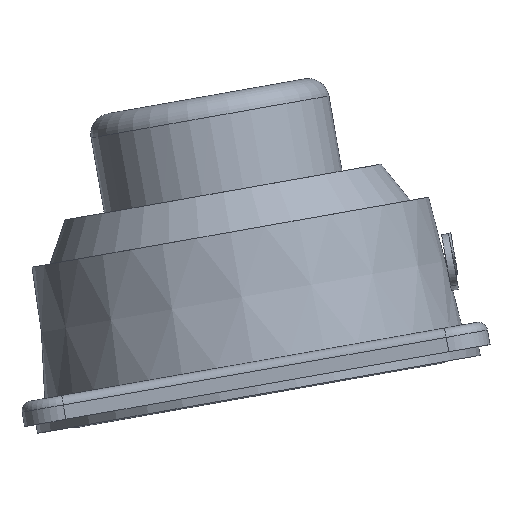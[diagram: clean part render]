
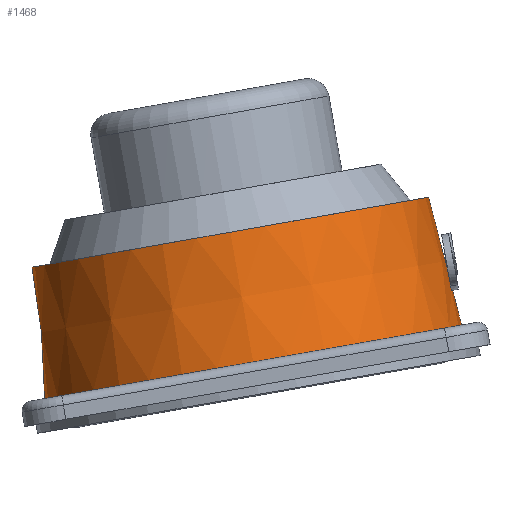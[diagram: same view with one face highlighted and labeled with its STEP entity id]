
A CAD part, left-side view. The second image highlights one B-rep face of the part: STEP entity #1468.
In plain terms, the highlighted conical face has half-angle 4.5 degrees and reference radius 19.754 mm.
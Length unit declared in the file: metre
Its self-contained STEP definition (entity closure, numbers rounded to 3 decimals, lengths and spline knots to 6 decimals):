
#15=CONICAL_SURFACE('',#1628,0.019754,0.079);
#30=B_SPLINE_CURVE_WITH_KNOTS('',3,(#2378,#2379,#2380,#2381),
 .UNSPECIFIED.,.F.,.F.,(4,4),(0.,0.001318),
 .UNSPECIFIED.);
#31=B_SPLINE_CURVE_WITH_KNOTS('',3,(#2386,#2387,#2388,#2389,#2390),
 .UNSPECIFIED.,.F.,.F.,(4,1,4),(0.015865,0.016909,0.017952),
 .UNSPECIFIED.);
#32=B_SPLINE_CURVE_WITH_KNOTS('',3,(#2395,#2396,#2397,#2398,#2399),
 .UNSPECIFIED.,.F.,.F.,(4,1,4),(0.015852,0.016895,0.017939),
 .UNSPECIFIED.);
#33=B_SPLINE_CURVE_WITH_KNOTS('',3,(#2401,#2402,#2403,#2404),
 .UNSPECIFIED.,.F.,.F.,(4,4),(0.,0.004348),
 .UNSPECIFIED.);
#366=ORIENTED_EDGE('',*,*,#716,.T.);
#367=ORIENTED_EDGE('',*,*,#715,.T.);
#368=ORIENTED_EDGE('',*,*,#701,.T.);
#369=ORIENTED_EDGE('',*,*,#699,.T.);
#370=ORIENTED_EDGE('',*,*,#704,.T.);
#371=ORIENTED_EDGE('',*,*,#705,.T.);
#699=EDGE_CURVE('',#891,#892,#30,.T.);
#701=EDGE_CURVE('',#893,#891,#31,.T.);
#704=EDGE_CURVE('',#892,#894,#32,.F.);
#705=EDGE_CURVE('',#894,#893,#33,.T.);
#715=EDGE_CURVE('',#904,#904,#1047,.T.);
#716=EDGE_CURVE('',#905,#905,#1048,.T.);
#891=VERTEX_POINT('',#2382);
#892=VERTEX_POINT('',#2383);
#893=VERTEX_POINT('',#2391);
#894=VERTEX_POINT('',#2394);
#904=VERTEX_POINT('',#2434);
#905=VERTEX_POINT('',#2437);
#1047=CIRCLE('',#1627,0.019258);
#1048=CIRCLE('',#1629,0.02025);
#1170=EDGE_LOOP('',(#366));
#1171=EDGE_LOOP('',(#367));
#1172=EDGE_LOOP('',(#368,#369,#370,#371));
#1308=FACE_BOUND('',#1170,.T.);
#1309=FACE_BOUND('',#1171,.T.);
#1310=FACE_BOUND('',#1172,.T.);
#1468=ADVANCED_FACE('',(#1308,#1309,#1310),#15,.T.);
#1627=AXIS2_PLACEMENT_3D('',#2433,#1939,#1940);
#1628=AXIS2_PLACEMENT_3D('',#2435,#1941,#1942);
#1629=AXIS2_PLACEMENT_3D('',#2436,#1943,#1944);
#1939=DIRECTION('',(0.,-0.174,-0.985));
#1940=DIRECTION('',(-1.,0.,0.));
#1941=DIRECTION('',(0.,-0.174,-0.985));
#1942=DIRECTION('',(-1.,0.,0.));
#1943=DIRECTION('',(0.,0.174,0.985));
#1944=DIRECTION('',(-1.,0.,0.));
#2378=CARTESIAN_POINT('',(-0.064864,0.049013,1.349103));
#2379=CARTESIAN_POINT('',(-0.064491,0.04894,1.34887));
#2380=CARTESIAN_POINT('',(-0.063984,0.04894,1.34887));
#2381=CARTESIAN_POINT('',(-0.063611,0.049013,1.349103));
#2382=CARTESIAN_POINT('',(-0.064864,0.049013,1.349103));
#2383=CARTESIAN_POINT('',(-0.063611,0.049013,1.349103));
#2386=CARTESIAN_POINT('',(-0.066411,0.048773,1.347742));
#2387=CARTESIAN_POINT('',(-0.066208,0.048822,1.348019));
#2388=CARTESIAN_POINT('',(-0.065766,0.048915,1.348549));
#2389=CARTESIAN_POINT('',(-0.065191,0.04899,1.348974));
#2390=CARTESIAN_POINT('',(-0.064864,0.049013,1.349103));
#2391=CARTESIAN_POINT('',(-0.066411,0.048773,1.347742));
#2394=CARTESIAN_POINT('',(-0.062064,0.048772,1.347742));
#2395=CARTESIAN_POINT('',(-0.062064,0.048772,1.347742));
#2396=CARTESIAN_POINT('',(-0.062267,0.048821,1.348019));
#2397=CARTESIAN_POINT('',(-0.062709,0.048915,1.348549));
#2398=CARTESIAN_POINT('',(-0.063284,0.04899,1.348974));
#2399=CARTESIAN_POINT('',(-0.063611,0.049013,1.349103));
#2401=CARTESIAN_POINT('',(-0.062064,0.048772,1.347742));
#2402=CARTESIAN_POINT('',(-0.063513,0.048599,1.347704));
#2403=CARTESIAN_POINT('',(-0.064962,0.0486,1.347704));
#2404=CARTESIAN_POINT('',(-0.066411,0.048773,1.347742));
#2433=CARTESIAN_POINT('',(-0.064235,0.069919,1.353302));
#2434=CARTESIAN_POINT('',(-0.083493,0.069921,1.353301));
#2435=CARTESIAN_POINT('',(-0.064235,0.068825,1.347097));
#2436=CARTESIAN_POINT('',(-0.064235,0.067731,1.340893));
#2437=CARTESIAN_POINT('',(-0.084485,0.067733,1.340893));
